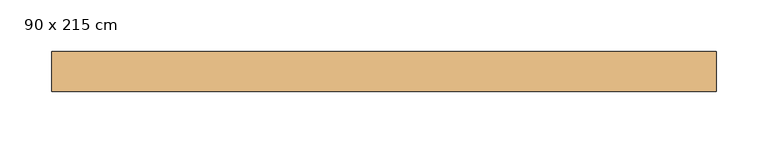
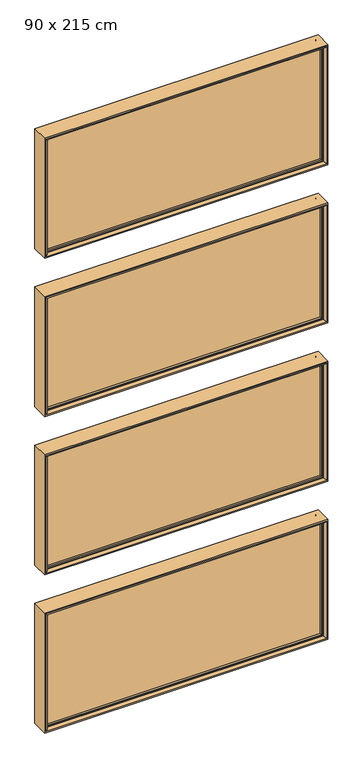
"""IFC4 building model written with IfcOpenShell, lengths in millimetres: door geometry, Porte d'entrée gris : 90 x 215 cm."""

from ifc_helpers import new_model, si_unit, frame, origin, place, context, project, spatial, polyline, ellipse_curve, outline, extrude, source, transform, mapped, element, save
from ifc_brep_helpers import plane_surface, cylinder_surface, advanced_brep


def door_90_x_215_cm_61efbbe3(model_context):
    return source(origin(), model_context, "Body", "SolidModel", [
        advanced_brep(
        [(-321.3998, -90.97284, 1355.405), (-321.3998, -52.49184, 1355.405), (321.3998, -52.49184, 1355.405), (321.3998, -90.97284, 1355.405), (310.2746, -79.84764, 1366.5302), (-310.2746, -79.84764, 1366.5302), (-310.2746, -83.9256347, 1366.5302), (310.2746, -83.9256347, 1366.5302), (-320.1298, -63.64244, 1356.675), (-320.1298, -79.84764, 1356.675), (320.1298, -79.84764, 1356.675), (320.1298, -63.64244, 1356.675), (321.3998, -52.49184, 1643.165), (321.3998, -90.97284, 1643.165), (310.2746, -79.84764, 1632.0398), (310.2746, -83.9256347, 1632.0398), (320.1298, -79.84764, 1641.895), (320.1298, -63.64244, 1641.895), (-321.3998, -52.49184, 1643.165), (-321.3998, -90.97284, 1643.165), (-310.2746, -79.84764, 1632.0398), (-310.2746, -83.9256347, 1632.0398), (-320.1298, -79.84764, 1641.895), (-320.1298, -63.64244, 1641.895), (310.2746, -63.64244, 1366.5302), (-310.2746, -63.64244, 1366.5302), (-310.2746, -63.64244, 1632.0398), (310.2746, -63.64244, 1632.0398), (310.2746, -59.5390453, 1366.5302), (-310.2746, -59.5390453, 1366.5302), (310.2746, -59.5390453, 1632.0398), (-310.2746, -59.5390453, 1632.0398), (-318.3923706, -90.97284, 1640.1575706), (318.3923706, -90.97284, 1640.1575706), (318.3923706, -90.97284, 1358.4124294), (-318.3923706, -90.97284, 1358.4124294), (318.3923706, -52.49184, 1640.1575706), (-318.3923706, -52.49184, 1640.1575706), (-318.3923706, -52.49184, 1358.4124294), (318.3923706, -52.49184, 1358.4124294), (313.4496, -86.0300694, 1635.2148), (-313.4496, -86.0300694, 1635.2148), (-313.4496, -83.9256347, 1635.2148), (313.4496, -83.9256347, 1635.2148), (-313.4496, -86.0300694, 1363.3552), (-313.4496, -83.9256347, 1363.3552), (313.4496, -86.0300694, 1363.3552), (313.4496, -83.9256347, 1363.3552), (313.4496, -57.4346106, 1635.2148), (-313.4496, -57.4346106, 1635.2148), (313.4496, -59.5390453, 1635.2148), (-313.4496, -59.5390453, 1635.2148), (-313.4496, -57.4346106, 1363.3552), (-313.4496, -59.5390453, 1363.3552), (313.4496, -57.4346106, 1363.3552), (313.4496, -59.5390453, 1363.3552)],
        [
            (0, 1),
            (1, 2),
            (2, 3),
            (3, 0),
            (4, 5),
            (5, 6),
            (6, 7),
            (7, 4),
            (8, 9),
            (9, 10),
            (10, 11),
            (11, 8),
            (2, 12),
            (12, 13),
            (13, 3),
            (14, 4),
            (7, 15),
            (15, 14),
            (10, 16),
            (16, 17),
            (17, 11),
            (12, 18),
            (18, 19),
            (19, 13),
            (20, 14),
            (15, 21),
            (21, 20),
            (16, 22),
            (22, 23),
            (23, 17),
            (0, 19),
            (18, 1),
            (5, 20),
            (21, 6),
            (9, 22),
            (8, 23),
            (24, 25),
            (25, 26),
            (26, 27),
            (27, 24),
            (24, 28),
            (28, 29),
            (29, 25),
            (27, 30),
            (30, 28),
            (26, 31),
            (31, 30),
            (32, 33),
            (33, 34),
            (34, 35),
            (35, 32),
            (29, 31),
            (36, 37),
            (37, 38),
            (38, 39),
            (39, 36),
            (40, 41),
            (41, 42),
            (42, 43),
            (43, 40),
            (40, 33, ellipse_curve(frame((318.3923706, -86.0300694, 1640.1575706), z_axis=(-0.7071067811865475, 0.0, 0.7071067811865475), x_axis=(-0.7071067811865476, 0.0, -0.7071067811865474)), 6.9901332, 4.9427706)),
            (32, 41, ellipse_curve(frame((-318.3923706, -86.0300694, 1640.1575706), z_axis=(0.7071067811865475, 0.0, 0.7071067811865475), x_axis=(-0.7071067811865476, 0.0, 0.7071067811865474)), 6.9901332, 4.9427706)),
            (41, 44),
            (44, 45),
            (45, 42),
            (35, 44, ellipse_curve(frame((-318.3923706, -86.0300694, 1358.4124294), z_axis=(-0.7071067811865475, 0.0, 0.7071067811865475), x_axis=(-0.7071067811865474, 0.0, -0.7071067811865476)), 6.9901332, 4.9427706)),
            (44, 46),
            (46, 47),
            (47, 45),
            (34, 46, ellipse_curve(frame((318.3923706, -86.0300694, 1358.4124294), z_axis=(-0.7071067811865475, 0.0, -0.7071067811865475), x_axis=(0.7071067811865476, 0.0, -0.7071067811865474)), 6.9901332, 4.9427706)),
            (47, 43),
            (46, 40),
            (48, 49),
            (49, 37, ellipse_curve(frame((-318.3923706, -57.4346106, 1640.1575706), z_axis=(0.7071067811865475, 0.0, 0.7071067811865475), x_axis=(-0.7071067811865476, 0.0, 0.7071067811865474)), 6.9901332, 4.9427706)),
            (36, 48, ellipse_curve(frame((318.3923706, -57.4346106, 1640.1575706), z_axis=(-0.7071067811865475, 0.0, 0.7071067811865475), x_axis=(-0.7071067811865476, 0.0, -0.7071067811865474)), 6.9901332, 4.9427706)),
            (48, 50),
            (50, 51),
            (51, 49),
            (49, 52),
            (52, 38, ellipse_curve(frame((-318.3923706, -57.4346106, 1358.4124294), z_axis=(-0.7071067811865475, 0.0, 0.7071067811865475), x_axis=(-0.7071067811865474, 0.0, -0.7071067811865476)), 6.9901332, 4.9427706)),
            (51, 53),
            (53, 52),
            (52, 54),
            (54, 39, ellipse_curve(frame((318.3923706, -57.4346106, 1358.4124294), z_axis=(-0.7071067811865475, 0.0, -0.7071067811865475), x_axis=(0.7071067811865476, 0.0, -0.7071067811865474)), 6.9901332, 4.9427706)),
            (53, 55),
            (55, 54),
            (54, 48),
            (55, 50),
        ],
        [
            plane_surface(frame((-321.3998, -52.49184, 1355.405), z_axis=(0.0, 0.0, -1.0), x_axis=(1.0, 0.0, 0.0))),
            plane_surface(frame((-310.2746, -90.97284, 1366.5302), z_axis=(0.0, 0.0, 1.0), x_axis=(1.0, 0.0, 0.0))),
            plane_surface(frame((-320.1298, -79.84764, 1356.675), z_axis=(0.0, 0.0, 1.0), x_axis=(1.0, 0.0, 0.0))),
            plane_surface(frame((321.3998, -52.49184, 1355.405), z_axis=(1.0, 0.0, 0.0), x_axis=(0.0, 0.0, 1.0))),
            plane_surface(frame((310.2746, -90.97284, 1366.5302), z_axis=(-1.0, 0.0, 0.0), x_axis=(0.0, 0.0, 1.0))),
            plane_surface(frame((320.1298, -79.84764, 1356.675), z_axis=(-1.0, 0.0, 0.0), x_axis=(0.0, 0.0, 1.0))),
            plane_surface(frame((321.3998, -52.49184, 1643.165), z_axis=(0.0, 0.0, 1.0), x_axis=(-1.0, 0.0, 0.0))),
            plane_surface(frame((310.2746, -90.97284, 1632.0398), z_axis=(0.0, 0.0, -1.0), x_axis=(-1.0, 0.0, 0.0))),
            plane_surface(frame((320.1298, -79.84764, 1641.895), z_axis=(0.0, 0.0, -1.0), x_axis=(-1.0, 0.0, 0.0))),
            plane_surface(frame((-321.3998, -52.49184, 1643.165), z_axis=(-1.0, 0.0, 0.0), x_axis=(0.0, 0.0, -1.0))),
            plane_surface(frame((-310.2746, -90.97284, 1632.0398), z_axis=(1.0, 0.0, 0.0), x_axis=(0.0, 0.0, -1.0))),
            plane_surface(frame((-310.2746, -79.84764, 1632.0398), z_axis=(0.0, 1.0, 0.0), x_axis=(0.0, 0.0, -1.0))),
            plane_surface(frame((-320.1298, -79.84764, 1641.895), z_axis=(1.0, 0.0, 0.0), x_axis=(0.0, 0.0, -1.0))),
            plane_surface(frame((-320.1298, -63.64244, 1641.895), z_axis=(0.0, -1.0, 0.0), x_axis=(0.0, 0.0, -1.0))),
            plane_surface(frame((-310.2746, -63.64244, 1366.5302), z_axis=(0.0, 0.0, 1.0), x_axis=(1.0, 0.0, 0.0))),
            plane_surface(frame((310.2746, -63.64244, 1366.5302), z_axis=(-1.0, 0.0, 0.0), x_axis=(0.0, 0.0, 1.0))),
            plane_surface(frame((310.2746, -63.64244, 1632.0398), z_axis=(0.0, 0.0, -1.0), x_axis=(-1.0, 0.0, 0.0))),
            plane_surface(frame((-321.3998, -90.97284, 1643.165), z_axis=(0.0, -1.0, 0.0), x_axis=(0.0, 0.0, -1.0))),
            plane_surface(frame((-310.2746, -63.64244, 1632.0398), z_axis=(1.0, 0.0, 0.0), x_axis=(0.0, 0.0, -1.0))),
            plane_surface(frame((-310.2746, -52.49184, 1632.0398), z_axis=(0.0, 1.0, 0.0), x_axis=(0.0, 0.0, -1.0))),
            plane_surface(frame((313.4496, -83.9256347, 1635.2148), z_axis=(0.0, 0.0, -1.0), x_axis=(-1.0, 0.0, 0.0))),
            cylinder_surface(frame((310.2746, -86.0300694, 1640.1575706), z_axis=(-1.0, 0.0, 0.0), x_axis=(0.0, 0.0, 1.0)), 4.9427706),
            plane_surface(frame((-313.4496, -83.9256347, 1635.2148), z_axis=(1.0, 0.0, 0.0), x_axis=(0.0, 0.0, -1.0))),
            cylinder_surface(frame((-318.3923706, -86.0300694, 1632.0398), z_axis=(0.0, 0.0, -1.0), x_axis=(-1.0, 0.0, 0.0)), 4.9427706),
            plane_surface(frame((-313.4496, -83.9256347, 1363.3552), z_axis=(0.0, 0.0, 1.0), x_axis=(1.0, 0.0, 0.0))),
            cylinder_surface(frame((-310.2746, -86.0300694, 1358.4124294), z_axis=(1.0, 0.0, 0.0), x_axis=(0.0, 0.0, -1.0)), 4.9427706),
            plane_surface(frame((310.2746, -83.9256347, 1366.5302), z_axis=(0.0, -1.0, 0.0), x_axis=(0.0, 0.0, 1.0))),
            plane_surface(frame((313.4496, -83.9256347, 1363.3552), z_axis=(-1.0, 0.0, 0.0), x_axis=(0.0, 0.0, 1.0))),
            cylinder_surface(frame((318.3923706, -86.0300694, 1366.5302), z_axis=(0.0, 0.0, 1.0), x_axis=(1.0, 0.0, 0.0)), 4.9427706),
            cylinder_surface(frame((310.2746, -57.4346106, 1640.1575706), z_axis=(-1.0, 0.0, 0.0), x_axis=(0.0, 0.0, 1.0)), 4.9427706),
            plane_surface(frame((313.4496, -57.4346106, 1635.2148), z_axis=(0.0, 0.0, -1.0), x_axis=(-1.0, 0.0, 0.0))),
            cylinder_surface(frame((-318.3923706, -57.4346106, 1632.0398), z_axis=(0.0, 0.0, -1.0), x_axis=(-1.0, 0.0, 0.0)), 4.9427706),
            plane_surface(frame((-313.4496, -57.4346106, 1635.2148), z_axis=(1.0, 0.0, 0.0), x_axis=(0.0, 0.0, -1.0))),
            cylinder_surface(frame((-310.2746, -57.4346106, 1358.4124294), z_axis=(1.0, 0.0, 0.0), x_axis=(0.0, 0.0, -1.0)), 4.9427706),
            plane_surface(frame((-313.4496, -57.4346106, 1363.3552), z_axis=(0.0, 0.0, 1.0), x_axis=(1.0, 0.0, 0.0))),
            cylinder_surface(frame((318.3923706, -57.4346106, 1366.5302), z_axis=(0.0, 0.0, 1.0), x_axis=(1.0, 0.0, 0.0)), 4.9427706),
            plane_surface(frame((313.4496, -57.4346106, 1363.3552), z_axis=(-1.0, 0.0, 0.0), x_axis=(0.0, 0.0, 1.0))),
            plane_surface(frame((313.4496, -59.5390453, 1363.3552), z_axis=(0.0, 1.0, 0.0), x_axis=(0.0, 0.0, 1.0))),
        ],
        [
            (0, [[1, 2, 3, 4]]),
            (1, [[5, 6, 7, 8]]),
            (2, [[9, 10, 11, 12]]),
            (3, [[-3, 13, 14, 15]]),
            (4, [[16, -8, 17, 18]]),
            (5, [[-11, 19, 20, 21]]),
            (6, [[-14, 22, 23, 24]]),
            (7, [[25, -18, 26, 27]]),
            (8, [[-20, 28, 29, 30]]),
            (9, [[-1, 31, -23, 32]]),
            (10, [[33, -27, 34, -6]]),
            (11, [[-10, 35, -28, -19], [-5, -16, -25, -33]]),
            (12, [[-9, 36, -29, -35]]),
            (13, [[-12, -21, -30, -36], [37, 38, 39, 40]]),
            (14, [[-37, 41, 42, 43]]),
            (15, [[-40, 44, 45, -41]]),
            (16, [[-39, 46, 47, -44]]),
            (17, [[-4, -15, -24, -31], [48, 49, 50, 51]]),
            (18, [[-38, -43, 52, -46]]),
            (19, [[-2, -32, -22, -13], [53, 54, 55, 56]]),
            (20, [[57, 58, 59, 60]]),
            (21, [[-57, 61, -48, 62]]),
            (22, [[-58, 63, 64, 65]]),
            (23, [[-62, -51, 66, -63]]),
            (24, [[-64, 67, 68, 69]]),
            (25, [[-66, -50, 70, -67]]),
            (26, [[-59, -65, -69, 71], [-7, -34, -26, -17]]),
            (27, [[-60, -71, -68, 72]]),
            (28, [[-61, -72, -70, -49]]),
            (29, [[73, 74, -53, 75]]),
            (30, [[-73, 76, 77, 78]]),
            (31, [[-74, 79, 80, -54]]),
            (32, [[-78, 81, 82, -79]]),
            (33, [[-80, 83, 84, -55]]),
            (34, [[-82, 85, 86, -83]]),
            (35, [[-75, -56, -84, 87]]),
            (36, [[-76, -87, -86, 88]]),
            (37, [[-77, -88, -85, -81], [-42, -45, -47, -52]]),
        ],
    ),
        extrude(outline(polyline([(320.1298, -63.64244), (320.1298, -79.84764), (-320.1298, -79.84764), (-320.1298, -63.64244), (320.1298, -63.64244)])), frame((0.0, 0.0, 1357.78625), z_axis=(0.0, 0.0, 1.0), x_axis=(1.0, 0.0, 0.0)), (0.0, 0.0, 1.0), 282.9975),
        advanced_brep(
        [(-321.3998, -90.97284, 1735.24), (-321.3998, -52.49184, 1735.24), (321.3998, -52.49184, 1735.24), (321.3998, -90.97284, 1735.24), (310.2746, -79.84764, 1746.3652), (-310.2746, -79.84764, 1746.3652), (-310.2746, -83.9256347, 1746.3652), (310.2746, -83.9256347, 1746.3652), (-320.1298, -63.64244, 1736.51), (-320.1298, -79.84764, 1736.51), (320.1298, -79.84764, 1736.51), (320.1298, -63.64244, 1736.51), (321.3998, -52.49184, 2023.0), (321.3998, -90.97284, 2023.0), (310.2746, -79.84764, 2011.8748), (310.2746, -83.9256347, 2011.8748), (320.1298, -79.84764, 2021.73), (320.1298, -63.64244, 2021.73), (-321.3998, -52.49184, 2023.0), (-321.3998, -90.97284, 2023.0), (-310.2746, -79.84764, 2011.8748), (-310.2746, -83.9256347, 2011.8748), (-320.1298, -79.84764, 2021.73), (-320.1298, -63.64244, 2021.73), (310.2746, -63.64244, 1746.3652), (-310.2746, -63.64244, 1746.3652), (-310.2746, -63.64244, 2011.8748), (310.2746, -63.64244, 2011.8748), (310.2746, -59.5390453, 1746.3652), (-310.2746, -59.5390453, 1746.3652), (310.2746, -59.5390453, 2011.8748), (-310.2746, -59.5390453, 2011.8748), (-318.3923706, -90.97284, 2019.9925706), (318.3923706, -90.97284, 2019.9925706), (318.3923706, -90.97284, 1738.2474294), (-318.3923706, -90.97284, 1738.2474294), (318.3923706, -52.49184, 2019.9925706), (-318.3923706, -52.49184, 2019.9925706), (-318.3923706, -52.49184, 1738.2474294), (318.3923706, -52.49184, 1738.2474294), (313.4496, -86.0300694, 2015.0498), (-313.4496, -86.0300694, 2015.0498), (-313.4496, -83.9256347, 2015.0498), (313.4496, -83.9256347, 2015.0498), (-313.4496, -86.0300694, 1743.1902), (-313.4496, -83.9256347, 1743.1902), (313.4496, -86.0300694, 1743.1902), (313.4496, -83.9256347, 1743.1902), (313.4496, -57.4346106, 2015.0498), (-313.4496, -57.4346106, 2015.0498), (313.4496, -59.5390453, 2015.0498), (-313.4496, -59.5390453, 2015.0498), (-313.4496, -57.4346106, 1743.1902), (-313.4496, -59.5390453, 1743.1902), (313.4496, -57.4346106, 1743.1902), (313.4496, -59.5390453, 1743.1902)],
        [
            (0, 1),
            (1, 2),
            (2, 3),
            (3, 0),
            (4, 5),
            (5, 6),
            (6, 7),
            (7, 4),
            (8, 9),
            (9, 10),
            (10, 11),
            (11, 8),
            (2, 12),
            (12, 13),
            (13, 3),
            (14, 4),
            (7, 15),
            (15, 14),
            (10, 16),
            (16, 17),
            (17, 11),
            (12, 18),
            (18, 19),
            (19, 13),
            (20, 14),
            (15, 21),
            (21, 20),
            (16, 22),
            (22, 23),
            (23, 17),
            (0, 19),
            (18, 1),
            (5, 20),
            (21, 6),
            (9, 22),
            (8, 23),
            (24, 25),
            (25, 26),
            (26, 27),
            (27, 24),
            (24, 28),
            (28, 29),
            (29, 25),
            (27, 30),
            (30, 28),
            (26, 31),
            (31, 30),
            (32, 33),
            (33, 34),
            (34, 35),
            (35, 32),
            (29, 31),
            (36, 37),
            (37, 38),
            (38, 39),
            (39, 36),
            (40, 41),
            (41, 42),
            (42, 43),
            (43, 40),
            (40, 33, ellipse_curve(frame((318.3923706, -86.0300694, 2019.9925706), z_axis=(-0.7071067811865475, 0.0, 0.7071067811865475), x_axis=(-0.7071067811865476, 0.0, -0.7071067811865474)), 6.9901332, 4.9427706)),
            (32, 41, ellipse_curve(frame((-318.3923706, -86.0300694, 2019.9925706), z_axis=(0.7071067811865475, 0.0, 0.7071067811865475), x_axis=(-0.7071067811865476, 0.0, 0.7071067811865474)), 6.9901332, 4.9427706)),
            (41, 44),
            (44, 45),
            (45, 42),
            (35, 44, ellipse_curve(frame((-318.3923706, -86.0300694, 1738.2474294), z_axis=(-0.7071067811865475, 0.0, 0.7071067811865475), x_axis=(-0.7071067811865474, 0.0, -0.7071067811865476)), 6.9901332, 4.9427706)),
            (44, 46),
            (46, 47),
            (47, 45),
            (34, 46, ellipse_curve(frame((318.3923706, -86.0300694, 1738.2474294), z_axis=(-0.7071067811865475, 0.0, -0.7071067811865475), x_axis=(0.7071067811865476, 0.0, -0.7071067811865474)), 6.9901332, 4.9427706)),
            (47, 43),
            (46, 40),
            (48, 49),
            (49, 37, ellipse_curve(frame((-318.3923706, -57.4346106, 2019.9925706), z_axis=(0.7071067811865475, 0.0, 0.7071067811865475), x_axis=(-0.7071067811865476, 0.0, 0.7071067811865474)), 6.9901332, 4.9427706)),
            (36, 48, ellipse_curve(frame((318.3923706, -57.4346106, 2019.9925706), z_axis=(-0.7071067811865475, 0.0, 0.7071067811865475), x_axis=(-0.7071067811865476, 0.0, -0.7071067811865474)), 6.9901332, 4.9427706)),
            (48, 50),
            (50, 51),
            (51, 49),
            (49, 52),
            (52, 38, ellipse_curve(frame((-318.3923706, -57.4346106, 1738.2474294), z_axis=(-0.7071067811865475, 0.0, 0.7071067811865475), x_axis=(-0.7071067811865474, 0.0, -0.7071067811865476)), 6.9901332, 4.9427706)),
            (51, 53),
            (53, 52),
            (52, 54),
            (54, 39, ellipse_curve(frame((318.3923706, -57.4346106, 1738.2474294), z_axis=(-0.7071067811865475, 0.0, -0.7071067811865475), x_axis=(0.7071067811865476, 0.0, -0.7071067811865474)), 6.9901332, 4.9427706)),
            (53, 55),
            (55, 54),
            (54, 48),
            (55, 50),
        ],
        [
            plane_surface(frame((-321.3998, -52.49184, 1735.24), z_axis=(0.0, 0.0, -1.0), x_axis=(1.0, 0.0, 0.0))),
            plane_surface(frame((-310.2746, -90.97284, 1746.3652), z_axis=(0.0, 0.0, 1.0), x_axis=(1.0, 0.0, 0.0))),
            plane_surface(frame((-320.1298, -79.84764, 1736.51), z_axis=(0.0, 0.0, 1.0), x_axis=(1.0, 0.0, 0.0))),
            plane_surface(frame((321.3998, -52.49184, 1735.24), z_axis=(1.0, 0.0, 0.0), x_axis=(0.0, 0.0, 1.0))),
            plane_surface(frame((310.2746, -90.97284, 1746.3652), z_axis=(-1.0, 0.0, 0.0), x_axis=(0.0, 0.0, 1.0))),
            plane_surface(frame((320.1298, -79.84764, 1736.51), z_axis=(-1.0, 0.0, 0.0), x_axis=(0.0, 0.0, 1.0))),
            plane_surface(frame((321.3998, -52.49184, 2023.0), z_axis=(0.0, 0.0, 1.0), x_axis=(-1.0, 0.0, 0.0))),
            plane_surface(frame((310.2746, -90.97284, 2011.8748), z_axis=(0.0, 0.0, -1.0), x_axis=(-1.0, 0.0, 0.0))),
            plane_surface(frame((320.1298, -79.84764, 2021.73), z_axis=(0.0, 0.0, -1.0), x_axis=(-1.0, 0.0, 0.0))),
            plane_surface(frame((-321.3998, -52.49184, 2023.0), z_axis=(-1.0, 0.0, 0.0), x_axis=(0.0, 0.0, -1.0))),
            plane_surface(frame((-310.2746, -90.97284, 2011.8748), z_axis=(1.0, 0.0, 0.0), x_axis=(0.0, 0.0, -1.0))),
            plane_surface(frame((-310.2746, -79.84764, 2011.8748), z_axis=(0.0, 1.0, 0.0), x_axis=(0.0, 0.0, -1.0))),
            plane_surface(frame((-320.1298, -79.84764, 2021.73), z_axis=(1.0, 0.0, 0.0), x_axis=(0.0, 0.0, -1.0))),
            plane_surface(frame((-320.1298, -63.64244, 2021.73), z_axis=(0.0, -1.0, 0.0), x_axis=(0.0, 0.0, -1.0))),
            plane_surface(frame((-310.2746, -63.64244, 1746.3652), z_axis=(0.0, 0.0, 1.0), x_axis=(1.0, 0.0, 0.0))),
            plane_surface(frame((310.2746, -63.64244, 1746.3652), z_axis=(-1.0, 0.0, 0.0), x_axis=(0.0, 0.0, 1.0))),
            plane_surface(frame((310.2746, -63.64244, 2011.8748), z_axis=(0.0, 0.0, -1.0), x_axis=(-1.0, 0.0, 0.0))),
            plane_surface(frame((-321.3998, -90.97284, 2023.0), z_axis=(0.0, -1.0, 0.0), x_axis=(0.0, 0.0, -1.0))),
            plane_surface(frame((-310.2746, -63.64244, 2011.8748), z_axis=(1.0, 0.0, 0.0), x_axis=(0.0, 0.0, -1.0))),
            plane_surface(frame((-310.2746, -52.49184, 2011.8748), z_axis=(0.0, 1.0, 0.0), x_axis=(0.0, 0.0, -1.0))),
            plane_surface(frame((313.4496, -83.9256347, 2015.0498), z_axis=(0.0, 0.0, -1.0), x_axis=(-1.0, 0.0, 0.0))),
            cylinder_surface(frame((310.2746, -86.0300694, 2019.9925706), z_axis=(-1.0, 0.0, 0.0), x_axis=(0.0, 0.0, 1.0)), 4.9427706),
            plane_surface(frame((-313.4496, -83.9256347, 2015.0498), z_axis=(1.0, 0.0, 0.0), x_axis=(0.0, 0.0, -1.0))),
            cylinder_surface(frame((-318.3923706, -86.0300694, 2011.8748), z_axis=(0.0, 0.0, -1.0), x_axis=(-1.0, 0.0, 0.0)), 4.9427706),
            plane_surface(frame((-313.4496, -83.9256347, 1743.1902), z_axis=(0.0, 0.0, 1.0), x_axis=(1.0, 0.0, 0.0))),
            cylinder_surface(frame((-310.2746, -86.0300694, 1738.2474294), z_axis=(1.0, 0.0, 0.0), x_axis=(0.0, 0.0, -1.0)), 4.9427706),
            plane_surface(frame((310.2746, -83.9256347, 1746.3652), z_axis=(0.0, -1.0, 0.0), x_axis=(0.0, 0.0, 1.0))),
            plane_surface(frame((313.4496, -83.9256347, 1743.1902), z_axis=(-1.0, 0.0, 0.0), x_axis=(0.0, 0.0, 1.0))),
            cylinder_surface(frame((318.3923706, -86.0300694, 1746.3652), z_axis=(0.0, 0.0, 1.0), x_axis=(1.0, 0.0, 0.0)), 4.9427706),
            cylinder_surface(frame((310.2746, -57.4346106, 2019.9925706), z_axis=(-1.0, 0.0, 0.0), x_axis=(0.0, 0.0, 1.0)), 4.9427706),
            plane_surface(frame((313.4496, -57.4346106, 2015.0498), z_axis=(0.0, 0.0, -1.0), x_axis=(-1.0, 0.0, 0.0))),
            cylinder_surface(frame((-318.3923706, -57.4346106, 2011.8748), z_axis=(0.0, 0.0, -1.0), x_axis=(-1.0, 0.0, 0.0)), 4.9427706),
            plane_surface(frame((-313.4496, -57.4346106, 2015.0498), z_axis=(1.0, 0.0, 0.0), x_axis=(0.0, 0.0, -1.0))),
            cylinder_surface(frame((-310.2746, -57.4346106, 1738.2474294), z_axis=(1.0, 0.0, 0.0), x_axis=(0.0, 0.0, -1.0)), 4.9427706),
            plane_surface(frame((-313.4496, -57.4346106, 1743.1902), z_axis=(0.0, 0.0, 1.0), x_axis=(1.0, 0.0, 0.0))),
            cylinder_surface(frame((318.3923706, -57.4346106, 1746.3652), z_axis=(0.0, 0.0, 1.0), x_axis=(1.0, 0.0, 0.0)), 4.9427706),
            plane_surface(frame((313.4496, -57.4346106, 1743.1902), z_axis=(-1.0, 0.0, 0.0), x_axis=(0.0, 0.0, 1.0))),
            plane_surface(frame((313.4496, -59.5390453, 1743.1902), z_axis=(0.0, 1.0, 0.0), x_axis=(0.0, 0.0, 1.0))),
        ],
        [
            (0, [[1, 2, 3, 4]]),
            (1, [[5, 6, 7, 8]]),
            (2, [[9, 10, 11, 12]]),
            (3, [[-3, 13, 14, 15]]),
            (4, [[16, -8, 17, 18]]),
            (5, [[-11, 19, 20, 21]]),
            (6, [[-14, 22, 23, 24]]),
            (7, [[25, -18, 26, 27]]),
            (8, [[-20, 28, 29, 30]]),
            (9, [[-1, 31, -23, 32]]),
            (10, [[33, -27, 34, -6]]),
            (11, [[-10, 35, -28, -19], [-5, -16, -25, -33]]),
            (12, [[-9, 36, -29, -35]]),
            (13, [[-12, -21, -30, -36], [37, 38, 39, 40]]),
            (14, [[-37, 41, 42, 43]]),
            (15, [[-40, 44, 45, -41]]),
            (16, [[-39, 46, 47, -44]]),
            (17, [[-4, -15, -24, -31], [48, 49, 50, 51]]),
            (18, [[-38, -43, 52, -46]]),
            (19, [[-2, -32, -22, -13], [53, 54, 55, 56]]),
            (20, [[57, 58, 59, 60]]),
            (21, [[-57, 61, -48, 62]]),
            (22, [[-58, 63, 64, 65]]),
            (23, [[-62, -51, 66, -63]]),
            (24, [[-64, 67, 68, 69]]),
            (25, [[-66, -50, 70, -67]]),
            (26, [[-59, -65, -69, 71], [-7, -34, -26, -17]]),
            (27, [[-60, -71, -68, 72]]),
            (28, [[-61, -72, -70, -49]]),
            (29, [[73, 74, -53, 75]]),
            (30, [[-73, 76, 77, 78]]),
            (31, [[-74, 79, 80, -54]]),
            (32, [[-78, 81, 82, -79]]),
            (33, [[-80, 83, 84, -55]]),
            (34, [[-82, 85, 86, -83]]),
            (35, [[-75, -56, -84, 87]]),
            (36, [[-76, -87, -86, 88]]),
            (37, [[-77, -88, -85, -81], [-42, -45, -47, -52]]),
        ],
    ),
        extrude(outline(polyline([(320.1298, -63.64244), (320.1298, -79.84764), (-320.1298, -79.84764), (-320.1298, -63.64244), (320.1298, -63.64244)])), frame((0.0, 0.0, 1737.62125), z_axis=(0.0, 0.0, 1.0), x_axis=(1.0, 0.0, 0.0)), (0.0, 0.0, 1.0), 282.9975),
        advanced_brep(
        [(-321.3998, -90.9322, 975.57), (-321.3998, -52.4512, 975.57), (321.3998, -52.4512, 975.57), (321.3998, -90.9322, 975.57), (310.2746, -79.807, 986.6952), (-310.2746, -79.807, 986.6952), (-310.2746, -83.8849947, 986.6952), (310.2746, -83.8849947, 986.6952), (-320.1298, -63.6018, 976.84), (-320.1298, -79.807, 976.84), (320.1298, -79.807, 976.84), (320.1298, -63.6018, 976.84), (321.3998, -52.4512, 1263.33), (321.3998, -90.9322, 1263.33), (310.2746, -79.807, 1252.2048), (310.2746, -83.8849947, 1252.2048), (320.1298, -79.807, 1262.06), (320.1298, -63.6018, 1262.06), (-321.3998, -52.4512, 1263.33), (-321.3998, -90.9322, 1263.33), (-310.2746, -79.807, 1252.2048), (-310.2746, -83.8849947, 1252.2048), (-320.1298, -79.807, 1262.06), (-320.1298, -63.6018, 1262.06), (310.2746, -63.6018, 986.6952), (-310.2746, -63.6018, 986.6952), (-310.2746, -63.6018, 1252.2048), (310.2746, -63.6018, 1252.2048), (310.2746, -59.4984053, 986.6952), (-310.2746, -59.4984053, 986.6952), (310.2746, -59.4984053, 1252.2048), (-310.2746, -59.4984053, 1252.2048), (-318.3923706, -90.9322, 1260.3225706), (318.3923706, -90.9322, 1260.3225706), (318.3923706, -90.9322, 978.5774294), (-318.3923706, -90.9322, 978.5774294), (318.3923706, -52.4512, 1260.3225706), (-318.3923706, -52.4512, 1260.3225706), (-318.3923706, -52.4512, 978.5774294), (318.3923706, -52.4512, 978.5774294), (313.4496, -85.9894294, 1255.3798), (-313.4496, -85.9894294, 1255.3798), (-313.4496, -83.8849947, 1255.3798), (313.4496, -83.8849947, 1255.3798), (-313.4496, -85.9894294, 983.5202), (-313.4496, -83.8849947, 983.5202), (313.4496, -85.9894294, 983.5202), (313.4496, -83.8849947, 983.5202), (313.4496, -57.3939706, 1255.3798), (-313.4496, -57.3939706, 1255.3798), (313.4496, -59.4984053, 1255.3798), (-313.4496, -59.4984053, 1255.3798), (-313.4496, -57.3939706, 983.5202), (-313.4496, -59.4984053, 983.5202), (313.4496, -57.3939706, 983.5202), (313.4496, -59.4984053, 983.5202)],
        [
            (0, 1),
            (1, 2),
            (2, 3),
            (3, 0),
            (4, 5),
            (5, 6),
            (6, 7),
            (7, 4),
            (8, 9),
            (9, 10),
            (10, 11),
            (11, 8),
            (2, 12),
            (12, 13),
            (13, 3),
            (14, 4),
            (7, 15),
            (15, 14),
            (10, 16),
            (16, 17),
            (17, 11),
            (12, 18),
            (18, 19),
            (19, 13),
            (20, 14),
            (15, 21),
            (21, 20),
            (16, 22),
            (22, 23),
            (23, 17),
            (0, 19),
            (18, 1),
            (5, 20),
            (21, 6),
            (9, 22),
            (8, 23),
            (24, 25),
            (25, 26),
            (26, 27),
            (27, 24),
            (24, 28),
            (28, 29),
            (29, 25),
            (27, 30),
            (30, 28),
            (26, 31),
            (31, 30),
            (32, 33),
            (33, 34),
            (34, 35),
            (35, 32),
            (29, 31),
            (36, 37),
            (37, 38),
            (38, 39),
            (39, 36),
            (40, 41),
            (41, 42),
            (42, 43),
            (43, 40),
            (40, 33, ellipse_curve(frame((318.3923706, -85.9894294, 1260.3225706), z_axis=(-0.7071067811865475, 0.0, 0.7071067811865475), x_axis=(-0.7071067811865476, 0.0, -0.7071067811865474)), 6.9901332, 4.9427706)),
            (32, 41, ellipse_curve(frame((-318.3923706, -85.9894294, 1260.3225706), z_axis=(0.7071067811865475, 0.0, 0.7071067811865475), x_axis=(-0.7071067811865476, 0.0, 0.7071067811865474)), 6.9901332, 4.9427706)),
            (41, 44),
            (44, 45),
            (45, 42),
            (35, 44, ellipse_curve(frame((-318.3923706, -85.9894294, 978.5774294), z_axis=(-0.7071067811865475, 0.0, 0.7071067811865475), x_axis=(-0.7071067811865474, 0.0, -0.7071067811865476)), 6.9901332, 4.9427706)),
            (44, 46),
            (46, 47),
            (47, 45),
            (34, 46, ellipse_curve(frame((318.3923706, -85.9894294, 978.5774294), z_axis=(-0.7071067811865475, 0.0, -0.7071067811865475), x_axis=(0.7071067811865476, 0.0, -0.7071067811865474)), 6.9901332, 4.9427706)),
            (47, 43),
            (46, 40),
            (48, 49),
            (49, 37, ellipse_curve(frame((-318.3923706, -57.3939706, 1260.3225706), z_axis=(0.7071067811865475, 0.0, 0.7071067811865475), x_axis=(-0.7071067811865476, 0.0, 0.7071067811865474)), 6.9901332, 4.9427706)),
            (36, 48, ellipse_curve(frame((318.3923706, -57.3939706, 1260.3225706), z_axis=(-0.7071067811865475, 0.0, 0.7071067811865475), x_axis=(-0.7071067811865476, 0.0, -0.7071067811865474)), 6.9901332, 4.9427706)),
            (48, 50),
            (50, 51),
            (51, 49),
            (49, 52),
            (52, 38, ellipse_curve(frame((-318.3923706, -57.3939706, 978.5774294), z_axis=(-0.7071067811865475, 0.0, 0.7071067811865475), x_axis=(-0.7071067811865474, 0.0, -0.7071067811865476)), 6.9901332, 4.9427706)),
            (51, 53),
            (53, 52),
            (52, 54),
            (54, 39, ellipse_curve(frame((318.3923706, -57.3939706, 978.5774294), z_axis=(-0.7071067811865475, 0.0, -0.7071067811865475), x_axis=(0.7071067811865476, 0.0, -0.7071067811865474)), 6.9901332, 4.9427706)),
            (53, 55),
            (55, 54),
            (54, 48),
            (55, 50),
        ],
        [
            plane_surface(frame((-321.3998, -52.4512, 975.57), z_axis=(0.0, 0.0, -1.0), x_axis=(1.0, 0.0, 0.0))),
            plane_surface(frame((-310.2746, -90.9322, 986.6952), z_axis=(0.0, 0.0, 1.0), x_axis=(1.0, 0.0, 0.0))),
            plane_surface(frame((-320.1298, -79.807, 976.84), z_axis=(0.0, 0.0, 1.0), x_axis=(1.0, 0.0, 0.0))),
            plane_surface(frame((321.3998, -52.4512, 975.57), z_axis=(1.0, 0.0, 0.0), x_axis=(0.0, 0.0, 1.0))),
            plane_surface(frame((310.2746, -90.9322, 986.6952), z_axis=(-1.0, 0.0, 0.0), x_axis=(0.0, 0.0, 1.0))),
            plane_surface(frame((320.1298, -79.807, 976.84), z_axis=(-1.0, 0.0, 0.0), x_axis=(0.0, 0.0, 1.0))),
            plane_surface(frame((321.3998, -52.4512, 1263.33), z_axis=(0.0, 0.0, 1.0), x_axis=(-1.0, 0.0, 0.0))),
            plane_surface(frame((310.2746, -90.9322, 1252.2048), z_axis=(0.0, 0.0, -1.0), x_axis=(-1.0, 0.0, 0.0))),
            plane_surface(frame((320.1298, -79.807, 1262.06), z_axis=(0.0, 0.0, -1.0), x_axis=(-1.0, 0.0, 0.0))),
            plane_surface(frame((-321.3998, -52.4512, 1263.33), z_axis=(-1.0, 0.0, 0.0), x_axis=(0.0, 0.0, -1.0))),
            plane_surface(frame((-310.2746, -90.9322, 1252.2048), z_axis=(1.0, 0.0, 0.0), x_axis=(0.0, 0.0, -1.0))),
            plane_surface(frame((-310.2746, -79.807, 1252.2048), z_axis=(0.0, 1.0, 0.0), x_axis=(0.0, 0.0, -1.0))),
            plane_surface(frame((-320.1298, -79.807, 1262.06), z_axis=(1.0, 0.0, 0.0), x_axis=(0.0, 0.0, -1.0))),
            plane_surface(frame((-320.1298, -63.6018, 1262.06), z_axis=(0.0, -1.0, 0.0), x_axis=(0.0, 0.0, -1.0))),
            plane_surface(frame((-310.2746, -63.6018, 986.6952), z_axis=(0.0, 0.0, 1.0), x_axis=(1.0, 0.0, 0.0))),
            plane_surface(frame((310.2746, -63.6018, 986.6952), z_axis=(-1.0, 0.0, 0.0), x_axis=(0.0, 0.0, 1.0))),
            plane_surface(frame((310.2746, -63.6018, 1252.2048), z_axis=(0.0, 0.0, -1.0), x_axis=(-1.0, 0.0, 0.0))),
            plane_surface(frame((-321.3998, -90.9322, 1263.33), z_axis=(0.0, -1.0, 0.0), x_axis=(0.0, 0.0, -1.0))),
            plane_surface(frame((-310.2746, -63.6018, 1252.2048), z_axis=(1.0, 0.0, 0.0), x_axis=(0.0, 0.0, -1.0))),
            plane_surface(frame((-310.2746, -52.4512, 1252.2048), z_axis=(0.0, 1.0, 0.0), x_axis=(0.0, 0.0, -1.0))),
            plane_surface(frame((313.4496, -83.8849947, 1255.3798), z_axis=(0.0, 0.0, -1.0), x_axis=(-1.0, 0.0, 0.0))),
            cylinder_surface(frame((310.2746, -85.9894294, 1260.3225706), z_axis=(-1.0, 0.0, 0.0), x_axis=(0.0, 0.0, 1.0)), 4.9427706),
            plane_surface(frame((-313.4496, -83.8849947, 1255.3798), z_axis=(1.0, 0.0, 0.0), x_axis=(0.0, 0.0, -1.0))),
            cylinder_surface(frame((-318.3923706, -85.9894294, 1252.2048), z_axis=(0.0, 0.0, -1.0), x_axis=(-1.0, 0.0, 0.0)), 4.9427706),
            plane_surface(frame((-313.4496, -83.8849947, 983.5202), z_axis=(0.0, 0.0, 1.0), x_axis=(1.0, 0.0, 0.0))),
            cylinder_surface(frame((-310.2746, -85.9894294, 978.5774294), z_axis=(1.0, 0.0, 0.0), x_axis=(0.0, 0.0, -1.0)), 4.9427706),
            plane_surface(frame((310.2746, -83.8849947, 986.6952), z_axis=(0.0, -1.0, 0.0), x_axis=(0.0, 0.0, 1.0))),
            plane_surface(frame((313.4496, -83.8849947, 983.5202), z_axis=(-1.0, 0.0, 0.0), x_axis=(0.0, 0.0, 1.0))),
            cylinder_surface(frame((318.3923706, -85.9894294, 986.6952), z_axis=(0.0, 0.0, 1.0), x_axis=(1.0, 0.0, 0.0)), 4.9427706),
            cylinder_surface(frame((310.2746, -57.3939706, 1260.3225706), z_axis=(-1.0, 0.0, 0.0), x_axis=(0.0, 0.0, 1.0)), 4.9427706),
            plane_surface(frame((313.4496, -57.3939706, 1255.3798), z_axis=(0.0, 0.0, -1.0), x_axis=(-1.0, 0.0, 0.0))),
            cylinder_surface(frame((-318.3923706, -57.3939706, 1252.2048), z_axis=(0.0, 0.0, -1.0), x_axis=(-1.0, 0.0, 0.0)), 4.9427706),
            plane_surface(frame((-313.4496, -57.3939706, 1255.3798), z_axis=(1.0, 0.0, 0.0), x_axis=(0.0, 0.0, -1.0))),
            cylinder_surface(frame((-310.2746, -57.3939706, 978.5774294), z_axis=(1.0, 0.0, 0.0), x_axis=(0.0, 0.0, -1.0)), 4.9427706),
            plane_surface(frame((-313.4496, -57.3939706, 983.5202), z_axis=(0.0, 0.0, 1.0), x_axis=(1.0, 0.0, 0.0))),
            cylinder_surface(frame((318.3923706, -57.3939706, 986.6952), z_axis=(0.0, 0.0, 1.0), x_axis=(1.0, 0.0, 0.0)), 4.9427706),
            plane_surface(frame((313.4496, -57.3939706, 983.5202), z_axis=(-1.0, 0.0, 0.0), x_axis=(0.0, 0.0, 1.0))),
            plane_surface(frame((313.4496, -59.4984053, 983.5202), z_axis=(0.0, 1.0, 0.0), x_axis=(0.0, 0.0, 1.0))),
        ],
        [
            (0, [[1, 2, 3, 4]]),
            (1, [[5, 6, 7, 8]]),
            (2, [[9, 10, 11, 12]]),
            (3, [[-3, 13, 14, 15]]),
            (4, [[16, -8, 17, 18]]),
            (5, [[-11, 19, 20, 21]]),
            (6, [[-14, 22, 23, 24]]),
            (7, [[25, -18, 26, 27]]),
            (8, [[-20, 28, 29, 30]]),
            (9, [[-1, 31, -23, 32]]),
            (10, [[33, -27, 34, -6]]),
            (11, [[-10, 35, -28, -19], [-5, -16, -25, -33]]),
            (12, [[-9, 36, -29, -35]]),
            (13, [[-12, -21, -30, -36], [37, 38, 39, 40]]),
            (14, [[-37, 41, 42, 43]]),
            (15, [[-40, 44, 45, -41]]),
            (16, [[-39, 46, 47, -44]]),
            (17, [[-4, -15, -24, -31], [48, 49, 50, 51]]),
            (18, [[-38, -43, 52, -46]]),
            (19, [[-2, -32, -22, -13], [53, 54, 55, 56]]),
            (20, [[57, 58, 59, 60]]),
            (21, [[-57, 61, -48, 62]]),
            (22, [[-58, 63, 64, 65]]),
            (23, [[-62, -51, 66, -63]]),
            (24, [[-64, 67, 68, 69]]),
            (25, [[-66, -50, 70, -67]]),
            (26, [[-59, -65, -69, 71], [-7, -34, -26, -17]]),
            (27, [[-60, -71, -68, 72]]),
            (28, [[-61, -72, -70, -49]]),
            (29, [[73, 74, -53, 75]]),
            (30, [[-73, 76, 77, 78]]),
            (31, [[-74, 79, 80, -54]]),
            (32, [[-78, 81, 82, -79]]),
            (33, [[-80, 83, 84, -55]]),
            (34, [[-82, 85, 86, -83]]),
            (35, [[-75, -56, -84, 87]]),
            (36, [[-76, -87, -86, 88]]),
            (37, [[-77, -88, -85, -81], [-42, -45, -47, -52]]),
        ],
    ),
        extrude(outline(polyline([(320.1298, -63.6018), (320.1298, -79.807), (-320.1298, -79.807), (-320.1298, -63.6018), (320.1298, -63.6018)])), frame((0.0, 0.0, 977.95125), z_axis=(0.0, 0.0, 1.0), x_axis=(1.0, 0.0, 0.0)), (0.0, 0.0, 1.0), 282.9975),
        advanced_brep(
        [(-321.3998, -90.9322, 595.735), (-321.3998, -52.4512, 595.735), (321.3998, -52.4512, 595.735), (321.3998, -90.9322, 595.735), (310.2746, -79.807, 606.8602), (-310.2746, -79.807, 606.8602), (-310.2746, -83.8849947, 606.8602), (310.2746, -83.8849947, 606.8602), (-320.1298, -63.6018, 597.005), (-320.1298, -79.807, 597.005), (320.1298, -79.807, 597.005), (320.1298, -63.6018, 597.005), (321.3998, -52.4512, 883.495), (321.3998, -90.9322, 883.495), (310.2746, -79.807, 872.3698), (310.2746, -83.8849947, 872.3698), (320.1298, -79.807, 882.225), (320.1298, -63.6018, 882.225), (-321.3998, -52.4512, 883.495), (-321.3998, -90.9322, 883.495), (-310.2746, -79.807, 872.3698), (-310.2746, -83.8849947, 872.3698), (-320.1298, -79.807, 882.225), (-320.1298, -63.6018, 882.225), (310.2746, -63.6018, 606.8602), (-310.2746, -63.6018, 606.8602), (-310.2746, -63.6018, 872.3698), (310.2746, -63.6018, 872.3698), (310.2746, -59.4984053, 606.8602), (-310.2746, -59.4984053, 606.8602), (310.2746, -59.4984053, 872.3698), (-310.2746, -59.4984053, 872.3698), (-318.3923706, -90.9322, 880.4875706), (318.3923706, -90.9322, 880.4875706), (318.3923706, -90.9322, 598.7424294), (-318.3923706, -90.9322, 598.7424294), (318.3923706, -52.4512, 880.4875706), (-318.3923706, -52.4512, 880.4875706), (-318.3923706, -52.4512, 598.7424294), (318.3923706, -52.4512, 598.7424294), (313.4496, -85.9894294, 875.5448), (-313.4496, -85.9894294, 875.5448), (-313.4496, -83.8849947, 875.5448), (313.4496, -83.8849947, 875.5448), (-313.4496, -85.9894294, 603.6852), (-313.4496, -83.8849947, 603.6852), (313.4496, -85.9894294, 603.6852), (313.4496, -83.8849947, 603.6852), (313.4496, -57.3939706, 875.5448), (-313.4496, -57.3939706, 875.5448), (313.4496, -59.4984053, 875.5448), (-313.4496, -59.4984053, 875.5448), (-313.4496, -57.3939706, 603.6852), (-313.4496, -59.4984053, 603.6852), (313.4496, -57.3939706, 603.6852), (313.4496, -59.4984053, 603.6852)],
        [
            (0, 1),
            (1, 2),
            (2, 3),
            (3, 0),
            (4, 5),
            (5, 6),
            (6, 7),
            (7, 4),
            (8, 9),
            (9, 10),
            (10, 11),
            (11, 8),
            (2, 12),
            (12, 13),
            (13, 3),
            (14, 4),
            (7, 15),
            (15, 14),
            (10, 16),
            (16, 17),
            (17, 11),
            (12, 18),
            (18, 19),
            (19, 13),
            (20, 14),
            (15, 21),
            (21, 20),
            (16, 22),
            (22, 23),
            (23, 17),
            (0, 19),
            (18, 1),
            (5, 20),
            (21, 6),
            (9, 22),
            (8, 23),
            (24, 25),
            (25, 26),
            (26, 27),
            (27, 24),
            (24, 28),
            (28, 29),
            (29, 25),
            (27, 30),
            (30, 28),
            (26, 31),
            (31, 30),
            (32, 33),
            (33, 34),
            (34, 35),
            (35, 32),
            (29, 31),
            (36, 37),
            (37, 38),
            (38, 39),
            (39, 36),
            (40, 41),
            (41, 42),
            (42, 43),
            (43, 40),
            (40, 33, ellipse_curve(frame((318.3923706, -85.9894294, 880.4875706), z_axis=(-0.7071067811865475, 0.0, 0.7071067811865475), x_axis=(-0.7071067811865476, 0.0, -0.7071067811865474)), 6.9901332, 4.9427706)),
            (32, 41, ellipse_curve(frame((-318.3923706, -85.9894294, 880.4875706), z_axis=(0.7071067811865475, 0.0, 0.7071067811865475), x_axis=(-0.7071067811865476, 0.0, 0.7071067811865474)), 6.9901332, 4.9427706)),
            (41, 44),
            (44, 45),
            (45, 42),
            (35, 44, ellipse_curve(frame((-318.3923706, -85.9894294, 598.7424294), z_axis=(-0.7071067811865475, 0.0, 0.7071067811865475), x_axis=(-0.7071067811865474, 0.0, -0.7071067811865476)), 6.9901332, 4.9427706)),
            (44, 46),
            (46, 47),
            (47, 45),
            (34, 46, ellipse_curve(frame((318.3923706, -85.9894294, 598.7424294), z_axis=(-0.7071067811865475, 0.0, -0.7071067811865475), x_axis=(0.7071067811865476, 0.0, -0.7071067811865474)), 6.9901332, 4.9427706)),
            (47, 43),
            (46, 40),
            (48, 49),
            (49, 37, ellipse_curve(frame((-318.3923706, -57.3939706, 880.4875706), z_axis=(0.7071067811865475, 0.0, 0.7071067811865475), x_axis=(-0.7071067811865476, 0.0, 0.7071067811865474)), 6.9901332, 4.9427706)),
            (36, 48, ellipse_curve(frame((318.3923706, -57.3939706, 880.4875706), z_axis=(-0.7071067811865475, 0.0, 0.7071067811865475), x_axis=(-0.7071067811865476, 0.0, -0.7071067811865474)), 6.9901332, 4.9427706)),
            (48, 50),
            (50, 51),
            (51, 49),
            (49, 52),
            (52, 38, ellipse_curve(frame((-318.3923706, -57.3939706, 598.7424294), z_axis=(-0.7071067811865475, 0.0, 0.7071067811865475), x_axis=(-0.7071067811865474, 0.0, -0.7071067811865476)), 6.9901332, 4.9427706)),
            (51, 53),
            (53, 52),
            (52, 54),
            (54, 39, ellipse_curve(frame((318.3923706, -57.3939706, 598.7424294), z_axis=(-0.7071067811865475, 0.0, -0.7071067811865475), x_axis=(0.7071067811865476, 0.0, -0.7071067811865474)), 6.9901332, 4.9427706)),
            (53, 55),
            (55, 54),
            (54, 48),
            (55, 50),
        ],
        [
            plane_surface(frame((-321.3998, -52.4512, 595.735), z_axis=(0.0, 0.0, -1.0), x_axis=(1.0, 0.0, 0.0))),
            plane_surface(frame((-310.2746, -90.9322, 606.8602), z_axis=(0.0, 0.0, 1.0), x_axis=(1.0, 0.0, 0.0))),
            plane_surface(frame((-320.1298, -79.807, 597.005), z_axis=(0.0, 0.0, 1.0), x_axis=(1.0, 0.0, 0.0))),
            plane_surface(frame((321.3998, -52.4512, 595.735), z_axis=(1.0, 0.0, 0.0), x_axis=(0.0, 0.0, 1.0))),
            plane_surface(frame((310.2746, -90.9322, 606.8602), z_axis=(-1.0, 0.0, 0.0), x_axis=(0.0, 0.0, 1.0))),
            plane_surface(frame((320.1298, -79.807, 597.005), z_axis=(-1.0, 0.0, 0.0), x_axis=(0.0, 0.0, 1.0))),
            plane_surface(frame((321.3998, -52.4512, 883.495), z_axis=(0.0, 0.0, 1.0), x_axis=(-1.0, 0.0, 0.0))),
            plane_surface(frame((310.2746, -90.9322, 872.3698), z_axis=(0.0, 0.0, -1.0), x_axis=(-1.0, 0.0, 0.0))),
            plane_surface(frame((320.1298, -79.807, 882.225), z_axis=(0.0, 0.0, -1.0), x_axis=(-1.0, 0.0, 0.0))),
            plane_surface(frame((-321.3998, -52.4512, 883.495), z_axis=(-1.0, 0.0, 0.0), x_axis=(0.0, 0.0, -1.0))),
            plane_surface(frame((-310.2746, -90.9322, 872.3698), z_axis=(1.0, 0.0, 0.0), x_axis=(0.0, 0.0, -1.0))),
            plane_surface(frame((-310.2746, -79.807, 872.3698), z_axis=(0.0, 1.0, 0.0), x_axis=(0.0, 0.0, -1.0))),
            plane_surface(frame((-320.1298, -79.807, 882.225), z_axis=(1.0, 0.0, 0.0), x_axis=(0.0, 0.0, -1.0))),
            plane_surface(frame((-320.1298, -63.6018, 882.225), z_axis=(0.0, -1.0, 0.0), x_axis=(0.0, 0.0, -1.0))),
            plane_surface(frame((-310.2746, -63.6018, 606.8602), z_axis=(0.0, 0.0, 1.0), x_axis=(1.0, 0.0, 0.0))),
            plane_surface(frame((310.2746, -63.6018, 606.8602), z_axis=(-1.0, 0.0, 0.0), x_axis=(0.0, 0.0, 1.0))),
            plane_surface(frame((310.2746, -63.6018, 872.3698), z_axis=(0.0, 0.0, -1.0), x_axis=(-1.0, 0.0, 0.0))),
            plane_surface(frame((-321.3998, -90.9322, 883.495), z_axis=(0.0, -1.0, 0.0), x_axis=(0.0, 0.0, -1.0))),
            plane_surface(frame((-310.2746, -63.6018, 872.3698), z_axis=(1.0, 0.0, 0.0), x_axis=(0.0, 0.0, -1.0))),
            plane_surface(frame((-310.2746, -52.4512, 872.3698), z_axis=(0.0, 1.0, 0.0), x_axis=(0.0, 0.0, -1.0))),
            plane_surface(frame((313.4496, -83.8849947, 875.5448), z_axis=(0.0, 0.0, -1.0), x_axis=(-1.0, 0.0, 0.0))),
            cylinder_surface(frame((310.2746, -85.9894294, 880.4875706), z_axis=(-1.0, 0.0, 0.0), x_axis=(0.0, 0.0, 1.0)), 4.9427706),
            plane_surface(frame((-313.4496, -83.8849947, 875.5448), z_axis=(1.0, 0.0, 0.0), x_axis=(0.0, 0.0, -1.0))),
            cylinder_surface(frame((-318.3923706, -85.9894294, 872.3698), z_axis=(0.0, 0.0, -1.0), x_axis=(-1.0, 0.0, 0.0)), 4.9427706),
            plane_surface(frame((-313.4496, -83.8849947, 603.6852), z_axis=(0.0, 0.0, 1.0), x_axis=(1.0, 0.0, 0.0))),
            cylinder_surface(frame((-310.2746, -85.9894294, 598.7424294), z_axis=(1.0, 0.0, 0.0), x_axis=(0.0, 0.0, -1.0)), 4.9427706),
            plane_surface(frame((310.2746, -83.8849947, 606.8602), z_axis=(0.0, -1.0, 0.0), x_axis=(0.0, 0.0, 1.0))),
            plane_surface(frame((313.4496, -83.8849947, 603.6852), z_axis=(-1.0, 0.0, 0.0), x_axis=(0.0, 0.0, 1.0))),
            cylinder_surface(frame((318.3923706, -85.9894294, 606.8602), z_axis=(0.0, 0.0, 1.0), x_axis=(1.0, 0.0, 0.0)), 4.9427706),
            cylinder_surface(frame((310.2746, -57.3939706, 880.4875706), z_axis=(-1.0, 0.0, 0.0), x_axis=(0.0, 0.0, 1.0)), 4.9427706),
            plane_surface(frame((313.4496, -57.3939706, 875.5448), z_axis=(0.0, 0.0, -1.0), x_axis=(-1.0, 0.0, 0.0))),
            cylinder_surface(frame((-318.3923706, -57.3939706, 872.3698), z_axis=(0.0, 0.0, -1.0), x_axis=(-1.0, 0.0, 0.0)), 4.9427706),
            plane_surface(frame((-313.4496, -57.3939706, 875.5448), z_axis=(1.0, 0.0, 0.0), x_axis=(0.0, 0.0, -1.0))),
            cylinder_surface(frame((-310.2746, -57.3939706, 598.7424294), z_axis=(1.0, 0.0, 0.0), x_axis=(0.0, 0.0, -1.0)), 4.9427706),
            plane_surface(frame((-313.4496, -57.3939706, 603.6852), z_axis=(0.0, 0.0, 1.0), x_axis=(1.0, 0.0, 0.0))),
            cylinder_surface(frame((318.3923706, -57.3939706, 606.8602), z_axis=(0.0, 0.0, 1.0), x_axis=(1.0, 0.0, 0.0)), 4.9427706),
            plane_surface(frame((313.4496, -57.3939706, 603.6852), z_axis=(-1.0, 0.0, 0.0), x_axis=(0.0, 0.0, 1.0))),
            plane_surface(frame((313.4496, -59.4984053, 603.6852), z_axis=(0.0, 1.0, 0.0), x_axis=(0.0, 0.0, 1.0))),
        ],
        [
            (0, [[1, 2, 3, 4]]),
            (1, [[5, 6, 7, 8]]),
            (2, [[9, 10, 11, 12]]),
            (3, [[-3, 13, 14, 15]]),
            (4, [[16, -8, 17, 18]]),
            (5, [[-11, 19, 20, 21]]),
            (6, [[-14, 22, 23, 24]]),
            (7, [[25, -18, 26, 27]]),
            (8, [[-20, 28, 29, 30]]),
            (9, [[-1, 31, -23, 32]]),
            (10, [[33, -27, 34, -6]]),
            (11, [[-10, 35, -28, -19], [-5, -16, -25, -33]]),
            (12, [[-9, 36, -29, -35]]),
            (13, [[-12, -21, -30, -36], [37, 38, 39, 40]]),
            (14, [[-37, 41, 42, 43]]),
            (15, [[-40, 44, 45, -41]]),
            (16, [[-39, 46, 47, -44]]),
            (17, [[-4, -15, -24, -31], [48, 49, 50, 51]]),
            (18, [[-38, -43, 52, -46]]),
            (19, [[-2, -32, -22, -13], [53, 54, 55, 56]]),
            (20, [[57, 58, 59, 60]]),
            (21, [[-57, 61, -48, 62]]),
            (22, [[-58, 63, 64, 65]]),
            (23, [[-62, -51, 66, -63]]),
            (24, [[-64, 67, 68, 69]]),
            (25, [[-66, -50, 70, -67]]),
            (26, [[-59, -65, -69, 71], [-7, -34, -26, -17]]),
            (27, [[-60, -71, -68, 72]]),
            (28, [[-61, -72, -70, -49]]),
            (29, [[73, 74, -53, 75]]),
            (30, [[-73, 76, 77, 78]]),
            (31, [[-74, 79, 80, -54]]),
            (32, [[-78, 81, 82, -79]]),
            (33, [[-80, 83, 84, -55]]),
            (34, [[-82, 85, 86, -83]]),
            (35, [[-75, -56, -84, 87]]),
            (36, [[-76, -87, -86, 88]]),
            (37, [[-77, -88, -85, -81], [-42, -45, -47, -52]]),
        ],
    ),
        extrude(outline(polyline([(320.1298, -63.6018), (320.1298, -79.807), (-320.1298, -79.807), (-320.1298, -63.6018), (320.1298, -63.6018)])), frame((0.0, 0.0, 598.11625), z_axis=(0.0, 0.0, 1.0), x_axis=(1.0, 0.0, 0.0)), (0.0, 0.0, 1.0), 282.9975),
    ])


if __name__ == "__main__":
    model = new_model("IFC4")
    model_context = context("Model", 3, world=origin())
    ifc_project = project(units=[si_unit("LENGTHUNIT", "METRE", prefix="MILLI")], contexts=[model_context])
    site = spatial("IfcSite", under=ifc_project)
    building = spatial("IfcBuilding", under=site)
    placement = place(None, origin())
    door_90_x_215_cm_shape = door_90_x_215_cm_61efbbe3(model_context)
    element("IfcDoor", 1, ObjectType="Porte d'entrée gris : 90 x 215 cm", at=placement, inside=building, context=model_context, shape_type="MappedRepresentation", body=[
        mapped(door_90_x_215_cm_shape, transform((0.0, 0.0, 0.0), x_axis=(1.0, 0.0, 0.0), y_axis=(0.0, 1.0, 0.0), z_axis=(0.0, 0.0, 1.0))),
    ])
    save(model, "model.ifc")
